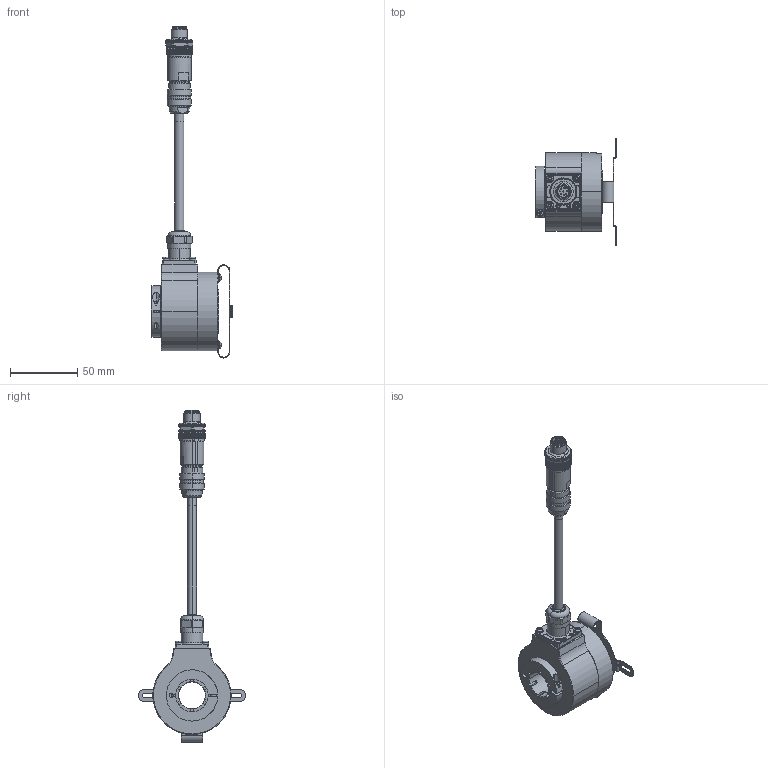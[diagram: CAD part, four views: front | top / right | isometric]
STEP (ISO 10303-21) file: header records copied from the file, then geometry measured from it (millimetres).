
FILE_DESCRIPTION (( 'STEP AP203' ), '1' );
FILE_NAME ('K58I.OXX.XXXXX.XC16520.XXR12.XXXX.step', '2025-12-03T07:25:13', ( '' ), ( '' ), 'SwSTEP 2.0', 'SolidWorks 2021', '' );
FILE_SCHEMA (( 'CONFIG_CONTROL_DESIGN' ));
Length unit declared in the file: millimetre
Products named in the file (1): K58I.OXX.XXXXX.XC16520.XXR12.XXXX
Bounding box: 60.2 x 79.4 x 245.99 mm (x, y, z)
Volume: 133214.7 mm3; surface area: 53737.6 mm2
Topology: 18 solids, 18 shells, 1652 faces, 4082 edges, 2488 vertices
Faces by surface type: cylinder 608, plane 598, cone 317, bspline 62, torus 35, sphere 32
Entity records: 52335 total; most frequent: CARTESIAN_POINT 14329, ORIENTED_EDGE 8076, DIRECTION 7844, EDGE_CURVE 4038, AXIS2_PLACEMENT_3D 3111, VERTEX_POINT 2472, EDGE_LOOP 1738, ADVANCED_FACE 1652
